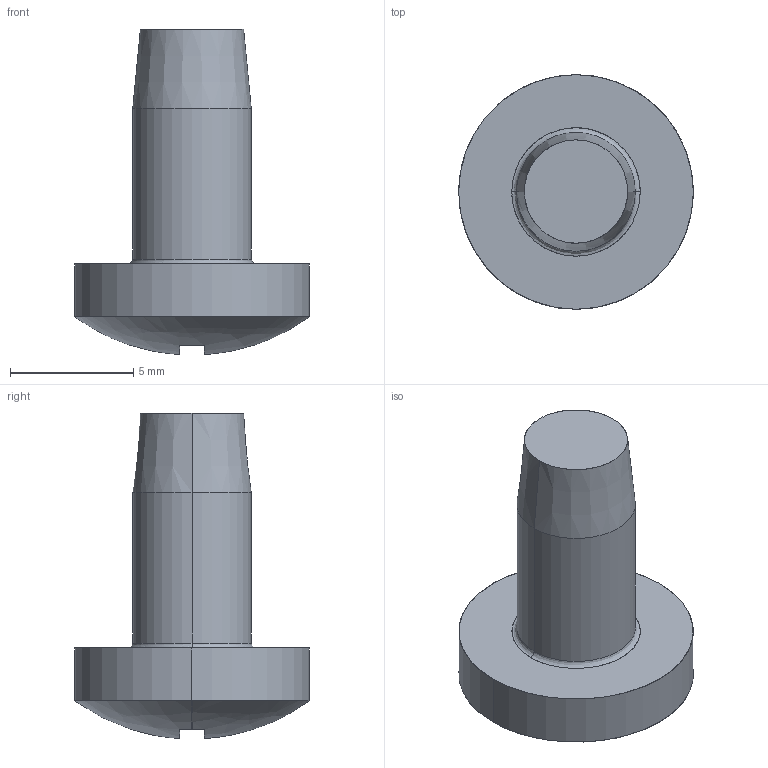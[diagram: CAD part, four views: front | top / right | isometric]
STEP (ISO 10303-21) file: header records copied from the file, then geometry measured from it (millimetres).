
FILE_DESCRIPTION (( 'STEP AP214' ), '1' );
FILE_NAME ('ENG-000585.STEP', '2005-03-31T14:34:46', ( '' ), ( '' ), 'SwSTEP 2.0', 'SolidWorks 2005074', '' );
FILE_SCHEMA (( 'AUTOMOTIVE_DESIGN' ));
Length unit declared in the file: millimetre
Products named in the file (1): ENG-000585
Bounding box: 9.5 x 9.5 x 13.17 mm (x, y, z)
Surface area: 366.7 mm2 (no closed solid volume)
Topology: 0 solids, 24 shells, 25 faces, 119 edges, 117 vertices
Faces by surface type: plane 15, cylinder 4, bspline 4, cone 2
Entity records: 2011 total; most frequent: CARTESIAN_POINT 883, DIRECTION 140, ORIENTED_EDGE 121, EDGE_CURVE 119, VERTEX_POINT 117, VECTOR 60, LINE 60, B_SPLINE_CURVE_WITH_KNOTS 41
